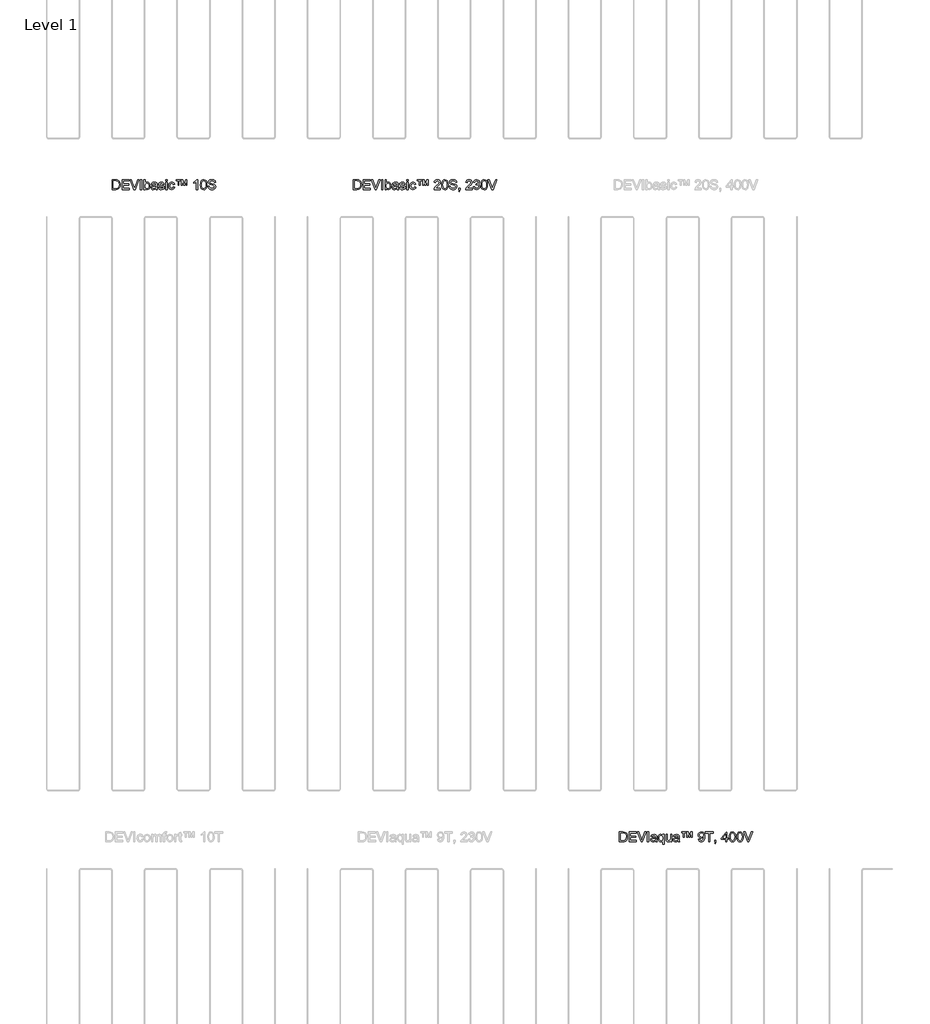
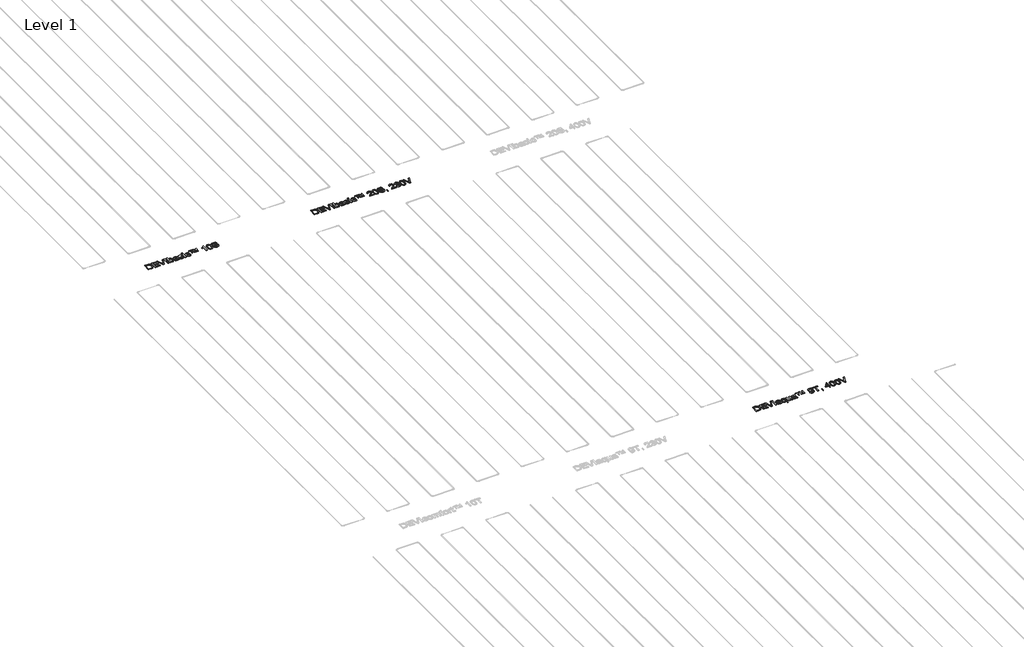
# One storey, part 12 of 26: 3 proxies.
"""IFC4 building model written with IfcOpenShell, lengths in millimetres."""

from ifc_helpers import new_model, si_unit, origin, origin_with_axes, place, context, project, spatial, polyline, outline, extrude, element, save

model = new_model("IFC4")

# Units and contexts
model_context = context("Model", 3, world=origin())
ifc_project = project(units=[si_unit("LENGTHUNIT", "METRE", prefix="MILLI")], contexts=[model_context])

# Site, building, storey
site = spatial("IfcSite", under=ifc_project)
building = spatial("IfcBuilding", under=site)
storey = spatial("IfcBuildingStorey", under=building, Name="Level 1", Elevation=0.0)

# Proxies
placement = place(None, origin())
element("IfcBuildingElementProxy", 1, Name="150mm", ObjectType="150mm", at=placement, inside=storey, context=model_context, shape_type="SweptSolid", body=[
    extrude(outline(polyline([(-10584.4008825, -7520.7202), (-10584.4008825, -7370.0357347), (-10532.4191566, -7370.0357347), (-10505.5269828, -7372.2062385), (-10483.3804866, -7382.985181), (-10472.9602291, -7394.4630992), (-10465.5382099, -7408.7369206), (-10461.0960348, -7425.5307337), (-10459.6153098, -7444.568627), (-10463.6252235, -7474.9740739), (-10473.9259194, -7496.9182349), (-10487.684706, -7510.585051), (-10505.6925297, -7518.145026), (-10529.917559, -7520.7202), (-10584.4008825, -7520.7202)]), holes=[polyline([(-10565.5653244, -7501.8846418), (-10532.2352156, -7501.8846418), (-10507.9917921, -7499.162315), (-10494.0122763, -7491.4735813), (-10482.5527522, -7472.7667819), (-10478.4508679, -7444.2743214), (-10480.4604233, -7423.746506), (-10486.4890895, -7408.5897678), (-10495.3964323, -7398.1787074), (-10506.0420176, -7391.8879252), (-10532.7502504, -7388.8712929), (-10565.5653244, -7388.8712929), (-10565.5653244, -7501.8846418)])]), origin_with_axes(), (0.0, 0.0, 1.0), 10.0),
    extrude(outline(polyline([(-10433.7164173, -7520.7202), (-10433.7164173, -7370.0357347), (-10325.4119579, -7370.0357347), (-10325.4119579, -7388.8712929), (-10414.8808591, -7388.8712929), (-10414.8808591, -7433.6057435), (-10330.1208475, -7433.6057435), (-10330.1208475, -7452.4413017), (-10414.8808591, -7452.4413017), (-10414.8808591, -7501.8846418), (-10323.0575132, -7501.8846418), (-10323.0575132, -7520.7202), (-10433.7164173, -7520.7202)])), origin_with_axes(), (0.0, 0.0, 1.0), 10.0),
    extrude(outline(polyline([(-10250.2904545, -7520.7202), (-10310.2552197, -7370.0357347), (-10290.0952864, -7370.0357347), (-10249.9593607, -7478.5977115), (-10241.8291686, -7503.0618642), (-10233.8093411, -7478.5977115), (-10193.5630508, -7370.0357347), (-10173.4031175, -7370.0357347), (-10230.829497, -7520.7202), (-10250.2904545, -7520.7202)])), origin_with_axes(), (0.0, 0.0, 1.0), 10.0),
    extrude(outline(polyline([(-10153.5374898, -7520.7202), (-10153.5374898, -7370.0357347), (-10134.7019316, -7370.0357347), (-10134.7019316, -7520.7202), (-10153.5374898, -7520.7202)])), origin_with_axes(), (0.0, 0.0, 1.0), 10.0),
    extrude(outline(polyline([(-10080.5497019, -7520.7202), (-10099.3852601, -7520.7202), (-10099.3852601, -7370.0357347), (-10080.5497019, -7370.0357347), (-10080.5497019, -7425.9170098), (-10067.3611324, -7412.2593907), (-10050.9719895, -7407.706851), (-10032.0996432, -7411.8087353), (-10017.4579398, -7423.3418358), (-10008.463225, -7441.2760831), (-10005.2074693, -7463.7352789), (-10008.5781881, -7488.8800133), (-10018.6903444, -7507.5868127), (-10033.5297844, -7519.2026867), (-10051.0823541, -7523.0746447), (-10067.8301819, -7518.0806466), (-10080.5497019, -7503.0986524), (-10080.5497019, -7520.7202)]), holes=[polyline([(-10080.5497019, -7464.6181957), (-10079.2621149, -7480.3267569), (-10075.399354, -7490.9585465), (-10065.5309195, -7500.9189516), (-10052.7010349, -7504.2390866), (-10041.8301219, -7501.7926713), (-10032.5411016, -7494.4534255), (-10026.167546, -7482.2673344), (-10024.0430275, -7465.2803833), (-10026.080174, -7448.0451118), (-10032.1916137, -7435.9969765), (-10041.190927, -7428.906051), (-10051.8916945, -7426.5424092), (-10062.7626075, -7428.9888245), (-10072.0516278, -7436.3280703), (-10078.4251834, -7448.2934322), (-10080.5497019, -7464.6181957)])]), origin_with_axes(), (0.0, 0.0, 1.0), 10.0),
    extrude(outline(polyline([(-9913.3841233, -7506.5935313), (-9931.6494644, -7519.3590366), (-9951.8277918, -7523.0746447), (-9967.5685427, -7520.8397616), (-9979.1798182, -7514.1351122), (-9986.3397215, -7503.953978), (-9988.7263559, -7491.2896403), (-9985.1211124, -7476.3904195), (-9975.648151, -7465.5746889), (-9962.4595815, -7459.3942714), (-9946.1624091, -7456.56158), (-9913.4944879, -7450.0868569), (-9913.3841233, -7445.8930021), (-9914.6809074, -7437.4868985), (-9918.5712595, -7431.9870627), (-9927.2716686, -7427.9035726), (-9939.3933804, -7426.5424092), (-9958.4496677, -7430.1660468), (-9967.536353, -7443.0235226), (-9986.3719112, -7440.6690778), (-9978.223325, -7422.274978), (-9961.815788, -7411.4960356), (-9936.9653592, -7407.706851), (-9914.1382814, -7411.0545772), (-9901.2440175, -7419.4606808), (-9895.4682702, -7432.2445801), (-9894.5485652, -7448.7256935), (-9894.5485652, -7472.1597766), (-9893.592072, -7504.8828801), (-9889.8396756, -7520.7202), (-9908.6752338, -7520.7202), (-9913.3841233, -7506.5935313)]), holes=[polyline([(-9913.3841233, -7468.922415), (-9943.7711761, -7474.6981624), (-9959.976378, -7477.7515829), (-9967.3156238, -7482.7179899), (-9969.8907978, -7489.9652652), (-9964.2805974, -7500.1555964), (-9947.8178781, -7504.2390866), (-9928.7615907, -7499.7325321), (-9916.4743321, -7488.824831), (-9913.4944879, -7474.256704), (-9913.3841233, -7468.922415)])]), origin_with_axes(), (0.0, 0.0, 1.0), 10.0),
    extrude(outline(polyline([(-9875.713007, -7487.7579732), (-9856.8774489, -7485.4035284), (-9853.9068018, -7493.4601441), (-9848.1586456, -7499.3830442), (-9828.1826532, -7504.2390866), (-9808.9792131, -7499.7877144), (-9802.7252192, -7489.3398658), (-9804.2979147, -7484.5390057), (-9809.0160013, -7480.8785799), (-9828.4033824, -7475.5075028), (-9856.7670843, -7466.2920588), (-9869.1463134, -7455.5315104), (-9873.3585622, -7440.337984), (-9869.9740479, -7426.3032859), (-9860.7402098, -7415.5795257), (-9848.7656509, -7410.0061135), (-9832.560449, -7407.706851), (-9809.6414007, -7411.4040651), (-9795.0732737, -7421.4104554), (-9788.5985506, -7438.314633), (-9807.4341087, -7440.6690778), (-9814.5158371, -7430.2764114), (-9831.088921, -7426.5424092), (-9849.1151388, -7430.1108645), (-9854.5230041, -7438.4249976), (-9852.2789239, -7443.9064394), (-9845.2523778, -7448.0635059), (-9829.0287818, -7452.0734197), (-9801.3824499, -7460.9393757), (-9788.5433683, -7470.9825542), (-9783.889661, -7487.353303), (-9789.3527086, -7505.3795208), (-9805.1164521, -7518.4577257), (-9828.4401706, -7523.0746447), (-9847.4320786, -7520.8489587), (-9861.2920328, -7514.1719004), (-9870.544265, -7503.1170465), (-9875.713007, -7487.7579732)])), origin_with_axes(), (0.0, 0.0, 1.0), 10.0),
    extrude(outline(polyline([(-9762.6996581, -7388.8712929), (-9762.6996581, -7370.0357347), (-9743.8640999, -7370.0357347), (-9743.8640999, -7388.8712929), (-9762.6996581, -7388.8712929)])), origin_with_axes(), (0.0, 0.0, 1.0), 10.0),
    extrude(outline(polyline([(-9762.6996581, -7520.7202), (-9762.6996581, -7410.0612958), (-9743.8640999, -7410.0612958), (-9743.8640999, -7520.7202), (-9762.6996581, -7520.7202)])), origin_with_axes(), (0.0, 0.0, 1.0), 10.0),
    extrude(outline(polyline([(-9644.9774196, -7480.6946389), (-9626.1418615, -7483.0490837), (-9631.393377, -7499.80151), (-9641.2618115, -7512.4612492), (-9654.818263, -7520.4212958), (-9671.1338295, -7523.0746447), (-9691.1696027, -7519.3728322), (-9706.8367771, -7508.2673944), (-9716.9489335, -7490.2457752), (-9720.3196523, -7465.7954181), (-9718.8803139, -7449.0337947), (-9714.562299, -7434.5070544), (-9707.2966296, -7422.7762173), (-9697.0143279, -7414.4023034), (-9684.7132736, -7409.3807141), (-9671.3913469, -7407.706851), (-9655.4758521, -7410.0061135), (-9642.7517336, -7416.9039009), (-9633.6236616, -7428.0323313), (-9628.4963063, -7443.0235226), (-9647.3318644, -7445.3779673), (-9656.0690618, -7431.2696928), (-9671.2441941, -7426.5424092), (-9683.4164896, -7428.8692628), (-9693.0779905, -7435.8498237), (-9699.3825682, -7447.8611708), (-9701.4840941, -7465.2803833), (-9699.4285535, -7482.9341205), (-9693.2619315, -7494.9868544), (-9683.7751746, -7501.9260285), (-9671.7592289, -7504.2390866), (-9662.0057575, -7502.7951497), (-9654.0089226, -7498.4633392), (-9648.1917886, -7491.1332905), (-9644.9774196, -7480.6946389)])), origin_with_axes(), (0.0, 0.0, 1.0), 10.0),
    extrude(outline(polyline([(-9574.3440766, -7454.7957464), (-9574.3440766, -7384.1624033), (-9602.5974138, -7384.1624033), (-9602.5974138, -7370.0357347), (-9531.9640707, -7370.0357347), (-9531.9640707, -7384.1624033), (-9560.217408, -7384.1624033), (-9560.217408, -7454.7957464), (-9574.3440766, -7454.7957464)])), origin_with_axes(), (0.0, 0.0, 1.0), 10.0),
    extrude(outline(polyline([(-9522.5462916, -7454.7957464), (-9522.5462916, -7370.0357347), (-9501.6505943, -7370.0357347), (-9480.0927094, -7438.0939038), (-9458.7923419, -7370.0357347), (-9437.78628, -7370.0357347), (-9437.78628, -7454.7957464), (-9451.9129486, -7454.7957464), (-9451.9129486, -7385.1924729), (-9473.1029515, -7454.7957464), (-9487.2296201, -7454.7957464), (-9508.419623, -7384.1624033), (-9508.419623, -7454.7957464), (-9522.5462916, -7454.7957464)])), origin_with_axes(), (0.0, 0.0, 1.0), 10.0),
    extrude(outline(polyline([(-9275.3295909, -7520.7202), (-9294.165149, -7520.7202), (-9294.165149, -7403.2922671), (-9312.0074258, -7416.00259), (-9331.8362653, -7425.5123396), (-9331.8362653, -7407.706851), (-9304.2267216, -7390.0853035), (-9287.4696967, -7370.0357347), (-9275.3295909, -7370.0357347), (-9275.3295909, -7520.7202)])), origin_with_axes(), (0.0, 0.0, 1.0), 10.0),
    extrude(outline(polyline([(-9230.5951403, -7446.5919779), (-9229.2109843, -7422.4727146), (-9225.0585162, -7403.2370848), (-9218.1791229, -7388.5907829), (-9208.6141911, -7378.2395032), (-9196.2947427, -7372.0866769), (-9181.1518001, -7370.0357347), (-9159.1524568, -7374.8917771), (-9143.9589304, -7388.889687), (-9135.1297625, -7411.1833359), (-9131.70846, -7446.5919779), (-9133.0788204, -7470.5732855), (-9137.1899017, -7489.7629301), (-9144.0279083, -7504.4230276), (-9153.5790446, -7514.8156939), (-9165.926084, -7521.009907), (-9181.1518001, -7523.0746447), (-9200.7231223, -7519.4877953), (-9215.5855549, -7508.7272469), (-9226.8427439, -7483.2422217), (-9230.5951403, -7446.5919779)]), holes=[polyline([(-9211.7595821, -7446.5551897), (-9209.5522901, -7476.1834859), (-9202.9304142, -7493.3313854), (-9193.0711768, -7501.5121613), (-9181.1518001, -7504.2390866), (-9169.2324235, -7501.5029642), (-9159.373186, -7493.2945972), (-9152.7513101, -7476.1375007), (-9150.5440181, -7446.5551897), (-9152.6777337, -7417.5936797), (-9159.0788804, -7400.3124229), (-9168.9197238, -7391.7315754), (-9181.3725293, -7388.8712929), (-9193.1631473, -7391.3912846), (-9202.6361086, -7398.9512596), (-9209.4787138, -7417.3085711), (-9211.7595821, -7446.5551897)])]), origin_with_axes(), (0.0, 0.0, 1.0), 10.0),
    extrude(outline(polyline([(-9115.2273466, -7468.922415), (-9096.3917884, -7468.922415), (-9090.3217355, -7487.7763673), (-9075.4960911, -7499.6957439), (-9052.9081366, -7504.2390866), (-9033.2264499, -7500.7993899), (-9020.5161269, -7491.3448226), (-9016.3406663, -7478.7080761), (-9019.4676632, -7466.9542464), (-9032.2699567, -7458.40099), (-9059.6955594, -7451.208897), (-9089.2180895, -7441.9198766), (-9105.2393504, -7427.9035726), (-9110.518457, -7409.178379), (-9108.8859807, -7398.1465177), (-9103.9885516, -7387.8596174), (-9095.9549286, -7379.1408141), (-9084.9138702, -7372.8132438), (-9056.9916267, -7367.68129), (-9027.1931851, -7373.0523671), (-9015.7704492, -7379.6834401), (-9007.3275574, -7388.8345047), (-9001.9840714, -7399.9353439), (-8999.8595529, -7412.4157406), (-9018.6951111, -7412.4157406), (-9022.1532018, -7401.1769456), (-9029.3636889, -7393.0651476), (-9040.630075, -7388.153923), (-9056.2558628, -7386.5168481), (-9072.2495325, -7388.1355289), (-9083.221613, -7392.9915712), (-9089.5675774, -7400.137679), (-9091.6828989, -7408.626556), (-9090.1837798, -7415.8646343), (-9085.6864224, -7421.6863669), (-9054.9314876, -7432.2077919), (-9021.6013788, -7441.6623592), (-9010.8638231, -7448.4957673), (-9003.372826, -7456.929462), (-8998.9720376, -7466.8714729), (-8997.5051081, -7478.2298295), (-8999.1927668, -7489.841105), (-9004.2557427, -7500.7626017), (-9012.4871024, -7510.1619867), (-9023.6799121, -7517.2069269), (-9037.1397946, -7521.6077153), (-9052.1723726, -7523.0746447), (-9070.6262532, -7521.4927521), (-9085.8151811, -7516.7470744), (-9097.9139002, -7508.8192174), (-9107.0971545, -7497.6907871), (-9112.9924635, -7484.1343355), (-9115.2273466, -7468.922415)])), origin_with_axes(), (0.0, 0.0, 1.0), 10.0),
])
element("IfcBuildingElementProxy", 2, Name="150mm", ObjectType="150mm", at=placement, inside=storey, context=model_context, shape_type="SweptSolid", body=[
    extrude(outline(polyline([(-6885.769813, -7520.7202), (-6885.769813, -7370.0357347), (-6833.7880871, -7370.0357347), (-6806.8959132, -7372.2062385), (-6784.7494171, -7382.985181), (-6774.3291596, -7394.4630992), (-6766.9071403, -7408.7369206), (-6762.4649652, -7425.5307337), (-6760.9842402, -7444.568627), (-6764.994154, -7474.9740739), (-6775.2948498, -7496.9182349), (-6789.0536364, -7510.585051), (-6807.0614601, -7518.145026), (-6831.2864895, -7520.7202), (-6885.769813, -7520.7202)]), holes=[polyline([(-6866.9342548, -7501.8846418), (-6833.6041461, -7501.8846418), (-6809.3607226, -7499.162315), (-6795.3812068, -7491.4735813), (-6783.9216826, -7472.7667819), (-6779.8197984, -7444.2743214), (-6781.8293538, -7423.746506), (-6787.85802, -7408.5897678), (-6796.7653628, -7398.1787074), (-6807.410948, -7391.8879252), (-6834.1191808, -7388.8712929), (-6866.9342548, -7388.8712929), (-6866.9342548, -7501.8846418)])]), origin_with_axes(), (0.0, 0.0, 1.0), 10.0),
    extrude(outline(polyline([(-6735.0853477, -7520.7202), (-6735.0853477, -7370.0357347), (-6626.7808884, -7370.0357347), (-6626.7808884, -7388.8712929), (-6716.2497896, -7388.8712929), (-6716.2497896, -7433.6057435), (-6631.4897779, -7433.6057435), (-6631.4897779, -7452.4413017), (-6716.2497896, -7452.4413017), (-6716.2497896, -7501.8846418), (-6624.4264436, -7501.8846418), (-6624.4264436, -7520.7202), (-6735.0853477, -7520.7202)])), origin_with_axes(), (0.0, 0.0, 1.0), 10.0),
    extrude(outline(polyline([(-6551.659385, -7520.7202), (-6611.6241502, -7370.0357347), (-6591.4642168, -7370.0357347), (-6551.3282912, -7478.5977115), (-6543.1980991, -7503.0618642), (-6535.1782716, -7478.5977115), (-6494.9319813, -7370.0357347), (-6474.772048, -7370.0357347), (-6532.1984274, -7520.7202), (-6551.659385, -7520.7202)])), origin_with_axes(), (0.0, 0.0, 1.0), 10.0),
    extrude(outline(polyline([(-6454.9064202, -7520.7202), (-6454.9064202, -7370.0357347), (-6436.0708621, -7370.0357347), (-6436.0708621, -7520.7202), (-6454.9064202, -7520.7202)])), origin_with_axes(), (0.0, 0.0, 1.0), 10.0),
    extrude(outline(polyline([(-6381.9186324, -7520.7202), (-6400.7541905, -7520.7202), (-6400.7541905, -7370.0357347), (-6381.9186324, -7370.0357347), (-6381.9186324, -7425.9170098), (-6368.7300629, -7412.2593907), (-6352.34092, -7407.706851), (-6333.4685736, -7411.8087353), (-6318.8268702, -7423.3418358), (-6309.8321554, -7441.2760831), (-6306.5763998, -7463.7352789), (-6309.9471185, -7488.8800133), (-6320.0592749, -7507.5868127), (-6334.8987149, -7519.2026867), (-6352.4512846, -7523.0746447), (-6369.1991124, -7518.0806466), (-6381.9186324, -7503.0986524), (-6381.9186324, -7520.7202)]), holes=[polyline([(-6381.9186324, -7464.6181957), (-6380.6310454, -7480.3267569), (-6376.7682844, -7490.9585465), (-6366.8998499, -7500.9189516), (-6354.0699653, -7504.2390866), (-6343.1990524, -7501.7926713), (-6333.910032, -7494.4534255), (-6327.5364764, -7482.2673344), (-6325.4119579, -7465.2803833), (-6327.4491045, -7448.0451118), (-6333.5605441, -7435.9969765), (-6342.5598574, -7428.906051), (-6353.260625, -7426.5424092), (-6364.1315379, -7428.9888245), (-6373.4205583, -7436.3280703), (-6379.7941139, -7448.2934322), (-6381.9186324, -7464.6181957)])]), origin_with_axes(), (0.0, 0.0, 1.0), 10.0),
    extrude(outline(polyline([(-6214.7530538, -7506.5935313), (-6233.0183948, -7519.3590366), (-6253.1967223, -7523.0746447), (-6268.9374731, -7520.8397616), (-6280.5487486, -7514.1351122), (-6287.7086519, -7503.953978), (-6290.0952864, -7491.2896403), (-6286.4900428, -7476.3904195), (-6277.0170815, -7465.5746889), (-6263.8285119, -7459.3942714), (-6247.5313395, -7456.56158), (-6214.8634184, -7450.0868569), (-6214.7530538, -7445.8930021), (-6216.0498378, -7437.4868985), (-6219.9401899, -7431.9870627), (-6228.6405991, -7427.9035726), (-6240.7623108, -7426.5424092), (-6259.8185982, -7430.1660468), (-6268.9052835, -7443.0235226), (-6287.7408416, -7440.6690778), (-6279.5922554, -7422.274978), (-6263.1847184, -7411.4960356), (-6238.3342897, -7407.706851), (-6215.5072119, -7411.0545772), (-6202.6129479, -7419.4606808), (-6196.8372006, -7432.2445801), (-6195.9174956, -7448.7256935), (-6195.9174956, -7472.1597766), (-6194.9610024, -7504.8828801), (-6191.2086061, -7520.7202), (-6210.0441642, -7520.7202), (-6214.7530538, -7506.5935313)]), holes=[polyline([(-6214.7530538, -7468.922415), (-6245.1401066, -7474.6981624), (-6261.3453085, -7477.7515829), (-6268.6845543, -7482.7179899), (-6271.2597282, -7489.9652652), (-6265.6495278, -7500.1555964), (-6249.1868085, -7504.2390866), (-6230.1305212, -7499.7325321), (-6217.8432625, -7488.824831), (-6214.8634184, -7474.256704), (-6214.7530538, -7468.922415)])]), origin_with_axes(), (0.0, 0.0, 1.0), 10.0),
    extrude(outline(polyline([(-6177.0819375, -7487.7579732), (-6158.2463793, -7485.4035284), (-6155.2757322, -7493.4601441), (-6149.527576, -7499.3830442), (-6129.5515837, -7504.2390866), (-6110.3481435, -7499.7877144), (-6104.0941496, -7489.3398658), (-6105.6668452, -7484.5390057), (-6110.3849317, -7480.8785799), (-6129.7723129, -7475.5075028), (-6158.1360147, -7466.2920588), (-6170.5152439, -7455.5315104), (-6174.7274927, -7440.337984), (-6171.3429783, -7426.3032859), (-6162.1091403, -7415.5795257), (-6150.1345813, -7410.0061135), (-6133.9293794, -7407.706851), (-6111.0103311, -7411.4040651), (-6096.4422041, -7421.4104554), (-6089.967481, -7438.314633), (-6108.8030392, -7440.6690778), (-6115.8847676, -7430.2764114), (-6132.4578514, -7426.5424092), (-6150.4840692, -7430.1108645), (-6155.8919345, -7438.4249976), (-6153.6478544, -7443.9064394), (-6146.6213083, -7448.0635059), (-6130.3977123, -7452.0734197), (-6102.7513803, -7460.9393757), (-6089.9122987, -7470.9825542), (-6085.2585915, -7487.353303), (-6090.7216391, -7505.3795208), (-6106.4853826, -7518.4577257), (-6129.8091011, -7523.0746447), (-6148.8010091, -7520.8489587), (-6162.6609633, -7514.1719004), (-6171.9131954, -7503.1170465), (-6177.0819375, -7487.7579732)])), origin_with_axes(), (0.0, 0.0, 1.0), 10.0),
    extrude(outline(polyline([(-6064.0685885, -7388.8712929), (-6064.0685885, -7370.0357347), (-6045.2330304, -7370.0357347), (-6045.2330304, -7388.8712929), (-6064.0685885, -7388.8712929)])), origin_with_axes(), (0.0, 0.0, 1.0), 10.0),
    extrude(outline(polyline([(-6064.0685885, -7520.7202), (-6064.0685885, -7410.0612958), (-6045.2330304, -7410.0612958), (-6045.2330304, -7520.7202), (-6064.0685885, -7520.7202)])), origin_with_axes(), (0.0, 0.0, 1.0), 10.0),
    extrude(outline(polyline([(-5946.3463501, -7480.6946389), (-5927.5107919, -7483.0490837), (-5932.7623074, -7499.80151), (-5942.6307419, -7512.4612492), (-5956.1871935, -7520.4212958), (-5972.5027599, -7523.0746447), (-5992.5385331, -7519.3728322), (-6008.2057076, -7508.2673944), (-6018.3178639, -7490.2457752), (-6021.6885827, -7465.7954181), (-6020.2492444, -7449.0337947), (-6015.9312295, -7434.5070544), (-6008.6655601, -7422.7762173), (-5998.3832583, -7414.4023034), (-5986.0822041, -7409.3807141), (-5972.7602773, -7407.706851), (-5956.8447825, -7410.0061135), (-5944.120664, -7416.9039009), (-5934.992592, -7428.0323313), (-5929.8652367, -7443.0235226), (-5948.7007949, -7445.3779673), (-5957.4379922, -7431.2696928), (-5972.6131245, -7426.5424092), (-5984.7854201, -7428.8692628), (-5994.446921, -7435.8498237), (-6000.7514987, -7447.8611708), (-6002.8530245, -7465.2803833), (-6000.7974839, -7482.9341205), (-5994.630862, -7494.9868544), (-5985.144105, -7501.9260285), (-5973.1281593, -7504.2390866), (-5963.3746879, -7502.7951497), (-5955.3778531, -7498.4633392), (-5949.560719, -7491.1332905), (-5946.3463501, -7480.6946389)])), origin_with_axes(), (0.0, 0.0, 1.0), 10.0),
    extrude(outline(polyline([(-5875.713007, -7454.7957464), (-5875.713007, -7384.1624033), (-5903.9663442, -7384.1624033), (-5903.9663442, -7370.0357347), (-5833.3330012, -7370.0357347), (-5833.3330012, -7384.1624033), (-5861.5863384, -7384.1624033), (-5861.5863384, -7454.7957464), (-5875.713007, -7454.7957464)])), origin_with_axes(), (0.0, 0.0, 1.0), 10.0),
    extrude(outline(polyline([(-5823.9152221, -7454.7957464), (-5823.9152221, -7370.0357347), (-5803.0195248, -7370.0357347), (-5781.4616399, -7438.0939038), (-5760.1612723, -7370.0357347), (-5739.1552104, -7370.0357347), (-5739.1552104, -7454.7957464), (-5753.281879, -7454.7957464), (-5753.281879, -7385.1924729), (-5774.4718819, -7454.7957464), (-5788.5985506, -7454.7957464), (-5809.7885535, -7384.1624033), (-5809.7885535, -7454.7957464), (-5823.9152221, -7454.7957464)])), origin_with_axes(), (0.0, 0.0, 1.0), 10.0),
    extrude(outline(polyline([(-5550.7996289, -7501.8846418), (-5550.7996289, -7520.7202), (-5649.6863092, -7520.7202), (-5647.6629582, -7507.7339655), (-5636.2218282, -7487.7395791), (-5612.6405923, -7465.9057827), (-5580.1198239, -7434.5254485), (-5574.0221798, -7423.7097178), (-5571.9896318, -7413.1882928), (-5573.9072167, -7403.7567181), (-5579.6599714, -7395.9162331), (-5588.5029349, -7390.6325279), (-5599.691146, -7388.8712929), (-5611.4403773, -7390.5911412), (-5620.5684493, -7395.7506862), (-5626.4591597, -7403.9452576), (-5628.4963063, -7414.7701853), (-5647.3318644, -7412.4157406), (-5642.7655291, -7394.1963848), (-5632.8924961, -7380.8882536), (-5618.2278001, -7372.7488644), (-5599.2864758, -7370.0357347), (-5580.2071959, -7373.0523671), (-5565.570091, -7382.1022642), (-5556.258078, -7395.6219275), (-5553.1540736, -7412.0478586), (-5556.5017998, -7429.9085294), (-5567.6302302, -7448.3762056), (-5594.6143745, -7474.1831276), (-5616.282624, -7492.3013158), (-5624.7806981, -7501.8846418), (-5550.7996289, -7501.8846418)])), origin_with_axes(), (0.0, 0.0, 1.0), 10.0),
    extrude(outline(polyline([(-5531.9640707, -7446.5919779), (-5530.5799147, -7422.4727146), (-5526.4274467, -7403.2370848), (-5519.5480534, -7388.5907829), (-5509.9831215, -7378.2395032), (-5497.6636732, -7372.0866769), (-5482.5207306, -7370.0357347), (-5460.5213873, -7374.8917771), (-5445.3278609, -7388.889687), (-5436.498693, -7411.1833359), (-5433.0773904, -7446.5919779), (-5434.4477509, -7470.5732855), (-5438.5588321, -7489.7629301), (-5445.3968387, -7504.4230276), (-5454.947975, -7514.8156939), (-5467.2950145, -7521.009907), (-5482.5207306, -7523.0746447), (-5502.0920527, -7519.4877953), (-5516.9544853, -7508.7272469), (-5528.2116744, -7483.2422217), (-5531.9640707, -7446.5919779)]), holes=[polyline([(-5513.1285126, -7446.5551897), (-5510.9212206, -7476.1834859), (-5504.2993447, -7493.3313854), (-5494.4401072, -7501.5121613), (-5482.5207306, -7504.2390866), (-5470.6013539, -7501.5029642), (-5460.7421165, -7493.2945972), (-5454.1202405, -7476.1375007), (-5451.9129486, -7446.5551897), (-5454.0466641, -7417.5936797), (-5460.4478109, -7400.3124229), (-5470.2886542, -7391.7315754), (-5482.7414598, -7388.8712929), (-5494.5320777, -7391.3912846), (-5504.0050391, -7398.9512596), (-5510.8476442, -7417.3085711), (-5513.1285126, -7446.5551897)])]), origin_with_axes(), (0.0, 0.0, 1.0), 10.0),
    extrude(outline(polyline([(-5416.596277, -7468.922415), (-5397.7607189, -7468.922415), (-5391.690666, -7487.7763673), (-5376.8650216, -7499.6957439), (-5354.2770671, -7504.2390866), (-5334.5953803, -7500.7993899), (-5321.8850574, -7491.3448226), (-5317.7095967, -7478.7080761), (-5320.8365937, -7466.9542464), (-5333.6388871, -7458.40099), (-5361.0644899, -7451.208897), (-5390.58702, -7441.9198766), (-5406.6082809, -7427.9035726), (-5411.8873875, -7409.178379), (-5410.2549111, -7398.1465177), (-5405.3574821, -7387.8596174), (-5397.323859, -7379.1408141), (-5386.2828006, -7372.8132438), (-5358.3605572, -7367.68129), (-5328.5621156, -7373.0523671), (-5317.1393796, -7379.6834401), (-5308.6964878, -7388.8345047), (-5303.3530019, -7399.9353439), (-5301.2284833, -7412.4157406), (-5320.0640415, -7412.4157406), (-5323.5221323, -7401.1769456), (-5330.7326194, -7393.0651476), (-5341.9990055, -7388.153923), (-5357.6247932, -7386.5168481), (-5373.6184629, -7388.1355289), (-5384.5905435, -7392.9915712), (-5390.9365079, -7400.137679), (-5393.0518293, -7408.626556), (-5391.5527102, -7415.8646343), (-5387.0553528, -7421.6863669), (-5356.300418, -7432.2077919), (-5322.9703093, -7441.6623592), (-5312.2327535, -7448.4957673), (-5304.7417564, -7456.929462), (-5300.340968, -7466.8714729), (-5298.8740386, -7478.2298295), (-5300.5616972, -7489.841105), (-5305.6246732, -7500.7626017), (-5313.8560328, -7510.1619867), (-5325.0488425, -7517.2069269), (-5338.508725, -7521.6077153), (-5353.5413031, -7523.0746447), (-5371.9951836, -7521.4927521), (-5387.1841115, -7516.7470744), (-5399.2828306, -7508.8192174), (-5408.4660849, -7497.6907871), (-5414.3613939, -7484.1343355), (-5416.596277, -7468.922415)])), origin_with_axes(), (0.0, 0.0, 1.0), 10.0),
    extrude(outline(polyline([(-5268.2662566, -7520.7202), (-5268.2662566, -7501.8846418), (-5249.4306984, -7501.8846418), (-5249.4306984, -7520.7202), (-5252.8152128, -7539.9788224), (-5263.557367, -7551.327982), (-5268.2662566, -7544.2646476), (-5261.3500751, -7536.1344556), (-5258.8852657, -7520.7202), (-5268.2662566, -7520.7202)])), origin_with_axes(), (0.0, 0.0, 1.0), 10.0),
    extrude(outline(polyline([(-5063.4295617, -7501.8846418), (-5063.4295617, -7520.7202), (-5162.316242, -7520.7202), (-5160.292891, -7507.7339655), (-5148.8517609, -7487.7395791), (-5125.2705251, -7465.9057827), (-5092.7497567, -7434.5254485), (-5086.6521126, -7423.7097178), (-5084.6195646, -7413.1882928), (-5086.5371495, -7403.7567181), (-5092.2899042, -7395.9162331), (-5101.1328676, -7390.6325279), (-5112.3210788, -7388.8712929), (-5124.07031, -7390.5911412), (-5133.1983821, -7395.7506862), (-5139.0890925, -7403.9452576), (-5141.126239, -7414.7701853), (-5159.9617972, -7412.4157406), (-5155.3954619, -7394.1963848), (-5145.5224289, -7380.8882536), (-5130.8577329, -7372.7488644), (-5111.9164086, -7370.0357347), (-5092.8371287, -7373.0523671), (-5078.2000238, -7382.1022642), (-5068.8880108, -7395.6219275), (-5065.7840064, -7412.0478586), (-5069.1317326, -7429.9085294), (-5080.2601629, -7448.3762056), (-5107.2443073, -7474.1831276), (-5128.9125568, -7492.3013158), (-5137.4106309, -7501.8846418), (-5063.4295617, -7501.8846418)])), origin_with_axes(), (0.0, 0.0, 1.0), 10.0),
    extrude(outline(polyline([(-5044.5940035, -7480.6946389), (-5025.7584454, -7478.3401941), (-5021.541598, -7490.1767973), (-5015.365779, -7498.1690337), (-5006.9274857, -7502.7215733), (-4995.9232155, -7504.2390866), (-4983.0105575, -7502.1513563), (-4973.0409554, -7495.8881653), (-4966.6673999, -7486.5439626), (-4964.5428814, -7475.2131972), (-4966.6490058, -7464.4572473), (-4972.9673791, -7455.7338455), (-4982.5323109, -7449.9534997), (-4994.3781112, -7448.0267177), (-5007.5850748, -7450.0868569), (-5005.4881474, -7431.2512987), (-5002.4715151, -7431.4720279), (-4981.0975711, -7426.0641626), (-4973.9790545, -7419.2031634), (-4971.6062157, -7409.4358964), (-4973.326064, -7401.3011058), (-4978.485609, -7394.7022225), (-4986.3582837, -7390.3290253), (-4996.2175211, -7388.8712929), (-5006.0951527, -7390.3428209), (-5014.1701625, -7394.7574048), (-5020.0654715, -7402.1150447), (-5023.4040006, -7412.4157406), (-5042.2395587, -7410.0612958), (-5036.6937377, -7393.1479211), (-5026.8253031, -7380.5203716), (-5013.3240339, -7372.6568939), (-4996.8797087, -7370.0357347), (-4974.1629955, -7375.2044768), (-4958.2704933, -7389.3311454), (-4952.7706575, -7408.3322504), (-4957.9945818, -7425.6962806), (-4973.4456256, -7438.1674802), (-4961.6550077, -7442.9315521), (-4952.9178103, -7451.0433501), (-4947.509945, -7462.0614158), (-4945.7073232, -7475.544291), (-4949.3125668, -7493.9016025), (-4960.1282974, -7509.2422817), (-4976.453061, -7519.616554), (-4996.5854031, -7523.0746447), (-5014.7955619, -7520.1223917), (-5029.6212063, -7511.2656327), (-5039.9310992, -7497.7183782), (-5044.5940035, -7480.6946389)])), origin_with_axes(), (0.0, 0.0, 1.0), 10.0),
    extrude(outline(polyline([(-4929.2262098, -7446.5919779), (-4927.8420538, -7422.4727146), (-4923.6895858, -7403.2370848), (-4916.8101925, -7388.5907829), (-4907.2452606, -7378.2395032), (-4894.9258123, -7372.0866769), (-4879.7828697, -7370.0357347), (-4857.7835264, -7374.8917771), (-4842.59, -7388.889687), (-4833.7608321, -7411.1833359), (-4830.3395295, -7446.5919779), (-4831.70989, -7470.5732855), (-4835.8209712, -7489.7629301), (-4842.6589778, -7504.4230276), (-4852.2101141, -7514.8156939), (-4864.5571536, -7521.009907), (-4879.7828697, -7523.0746447), (-4899.3541918, -7519.4877953), (-4914.2166244, -7508.7272469), (-4925.4738135, -7483.2422217), (-4929.2262098, -7446.5919779)]), holes=[polyline([(-4910.3906517, -7446.5551897), (-4908.1833597, -7476.1834859), (-4901.5614838, -7493.3313854), (-4891.7022463, -7501.5121613), (-4879.7828697, -7504.2390866), (-4867.863493, -7501.5029642), (-4858.0042556, -7493.2945972), (-4851.3823796, -7476.1375007), (-4849.1750877, -7446.5551897), (-4851.3088032, -7417.5936797), (-4857.70995, -7400.3124229), (-4867.5507933, -7391.7315754), (-4880.0035989, -7388.8712929), (-4891.7942168, -7391.3912846), (-4901.2671782, -7398.9512596), (-4908.1097833, -7417.3085711), (-4910.3906517, -7446.5551897)])]), origin_with_axes(), (0.0, 0.0, 1.0), 10.0),
    extrude(outline(polyline([(-4762.2813604, -7520.7202), (-4822.2461256, -7370.0357347), (-4802.0861923, -7370.0357347), (-4761.9502666, -7478.5977115), (-4753.8200745, -7503.0618642), (-4745.800247, -7478.5977115), (-4705.5539568, -7370.0357347), (-4685.3940234, -7370.0357347), (-4742.8204029, -7520.7202), (-4762.2813604, -7520.7202)])), origin_with_axes(), (0.0, 0.0, 1.0), 10.0),
])
element("IfcBuildingElementProxy", 3, Name="150mm", ObjectType="150mm", at=placement, inside=storey, context=model_context, shape_type="SweptSolid", body=[
    extrude(outline(polyline([(-2808.0731356, -17520.7202), (-2808.0731356, -17370.0357347), (-2756.0914097, -17370.0357347), (-2729.1992358, -17372.2062385), (-2707.0527397, -17382.985181), (-2696.6324822, -17394.4630992), (-2689.2104629, -17408.7369206), (-2684.7682879, -17425.5307337), (-2683.2875628, -17444.568627), (-2687.2974766, -17474.9740739), (-2697.5981724, -17496.9182349), (-2711.3569591, -17510.585051), (-2729.3647827, -17518.145026), (-2753.5898121, -17520.7202), (-2808.0731356, -17520.7202)]), holes=[polyline([(-2789.2375774, -17501.8846418), (-2755.9074687, -17501.8846418), (-2731.6640452, -17499.162315), (-2717.6845294, -17491.4735813), (-2706.2250052, -17472.7667819), (-2702.123121, -17444.2743214), (-2704.1326764, -17423.746506), (-2710.1613426, -17408.5897678), (-2719.0686854, -17398.1787074), (-2729.7142706, -17391.8879252), (-2756.4225035, -17388.8712929), (-2789.2375774, -17388.8712929), (-2789.2375774, -17501.8846418)])]), origin_with_axes(), (0.0, 0.0, 1.0), 10.0),
    extrude(outline(polyline([(-2657.3886704, -17520.7202), (-2657.3886704, -17370.0357347), (-2549.084211, -17370.0357347), (-2549.084211, -17388.8712929), (-2638.5531122, -17388.8712929), (-2638.5531122, -17433.6057435), (-2553.7931005, -17433.6057435), (-2553.7931005, -17452.4413017), (-2638.5531122, -17452.4413017), (-2638.5531122, -17501.8846418), (-2546.7297662, -17501.8846418), (-2546.7297662, -17520.7202), (-2657.3886704, -17520.7202)])), origin_with_axes(), (0.0, 0.0, 1.0), 10.0),
    extrude(outline(polyline([(-2473.9627076, -17520.7202), (-2533.9274728, -17370.0357347), (-2513.7675394, -17370.0357347), (-2473.6316138, -17478.5977115), (-2465.5014217, -17503.0618642), (-2457.4815942, -17478.5977115), (-2417.2353039, -17370.0357347), (-2397.0753706, -17370.0357347), (-2454.50175, -17520.7202), (-2473.9627076, -17520.7202)])), origin_with_axes(), (0.0, 0.0, 1.0), 10.0),
    extrude(outline(polyline([(-2377.2097428, -17520.7202), (-2377.2097428, -17370.0357347), (-2358.3741847, -17370.0357347), (-2358.3741847, -17520.7202), (-2377.2097428, -17520.7202)])), origin_with_axes(), (0.0, 0.0, 1.0), 10.0),
    extrude(outline(polyline([(-2252.4241701, -17506.5935313), (-2270.6895111, -17519.3590366), (-2290.8678386, -17523.0746447), (-2306.6085894, -17520.8397616), (-2318.2198649, -17514.1351122), (-2325.3797682, -17503.953978), (-2327.7664027, -17491.2896403), (-2324.1611591, -17476.3904195), (-2314.6881978, -17465.5746889), (-2301.4996282, -17459.3942714), (-2285.2024558, -17456.56158), (-2252.5345347, -17450.0868569), (-2252.4241701, -17445.8930021), (-2253.7209541, -17437.4868985), (-2257.6113062, -17431.9870627), (-2266.3117154, -17427.9035726), (-2278.4334271, -17426.5424092), (-2297.4897145, -17430.1660468), (-2306.5763998, -17443.0235226), (-2325.4119579, -17440.6690778), (-2317.2633717, -17422.274978), (-2300.8558347, -17411.4960356), (-2276.005406, -17407.706851), (-2253.1783282, -17411.0545772), (-2240.2840642, -17419.4606808), (-2234.5083169, -17432.2445801), (-2233.5886119, -17448.7256935), (-2233.5886119, -17472.1597766), (-2232.6321187, -17504.8828801), (-2228.8797224, -17520.7202), (-2247.7152805, -17520.7202), (-2252.4241701, -17506.5935313)]), holes=[polyline([(-2252.4241701, -17468.922415), (-2282.8112229, -17474.6981624), (-2299.0164248, -17477.7515829), (-2306.3556706, -17482.7179899), (-2308.9308445, -17489.9652652), (-2303.3206441, -17500.1555964), (-2286.8579248, -17504.2390866), (-2267.8016375, -17499.7325321), (-2255.5143788, -17488.824831), (-2252.5345347, -17474.256704), (-2252.4241701, -17468.922415)])]), origin_with_axes(), (0.0, 0.0, 1.0), 10.0),
    extrude(outline(polyline([(-2139.4108212, -17563.1002058), (-2139.4108212, -17505.6370382), (-2151.366986, -17518.1082378), (-2167.7009466, -17523.0746447), (-2185.6076027, -17519.152103), (-2200.8471144, -17507.3844776), (-2211.2765689, -17488.7834443), (-2214.7530538, -17464.3606783), (-2209.2348238, -17434.5254485), (-2202.4749922, -17422.9187715), (-2193.2319571, -17414.512668), (-2182.2414824, -17409.4083053), (-2170.2393324, -17407.706851), (-2152.7281494, -17412.9859577), (-2139.4108212, -17428.8232776), (-2139.4108212, -17410.0612958), (-2120.575263, -17410.0612958), (-2120.575263, -17563.1002058), (-2139.4108212, -17563.1002058)]), holes=[polyline([(-2195.9174956, -17465.3907479), (-2193.7975756, -17482.3868961), (-2187.4378156, -17494.5270019), (-2178.1166056, -17501.8110654), (-2167.1123354, -17504.2390866), (-2156.5679177, -17501.9306271), (-2147.5961956, -17495.0052485), (-2141.4571648, -17483.3617833), (-2139.4108212, -17466.8990641), (-2141.5675294, -17449.3005091), (-2148.0376539, -17436.6775582), (-2157.4140463, -17429.0761964), (-2168.2895578, -17426.5424092), (-2178.9627342, -17428.9014525), (-2187.879274, -17435.9785824), (-2193.9079402, -17448.0497103), (-2195.9174956, -17465.3907479)])]), origin_with_axes(), (0.0, 0.0, 1.0), 10.0),
    extrude(outline(polyline([(-2021.6885827, -17520.7202), (-2021.6885827, -17501.7007008), (-2036.4406507, -17517.7311587), (-2055.6808791, -17523.0746447), (-2073.3943971, -17519.3222484), (-2085.6080794, -17509.9044693), (-2091.2182798, -17496.0353181), (-2092.3219258, -17478.5241351), (-2092.3219258, -17410.0612958), (-2073.4863676, -17410.0612958), (-2073.4863676, -17469.658179), (-2072.3459334, -17488.8616192), (-2064.896323, -17500.1372023), (-2050.8616249, -17504.2390866), (-2035.1346696, -17500.0452318), (-2024.7420033, -17488.6224959), (-2021.6885827, -17467.6348281), (-2021.6885827, -17410.0612958), (-2002.8530245, -17410.0612958), (-2002.8530245, -17520.7202), (-2021.6885827, -17520.7202)])), origin_with_axes(), (0.0, 0.0, 1.0), 10.0),
    extrude(outline(polyline([(-1906.320789, -17506.5935313), (-1924.5861301, -17519.3590366), (-1944.7644575, -17523.0746447), (-1960.5052084, -17520.8397616), (-1972.1164839, -17514.1351122), (-1979.2763872, -17503.953978), (-1981.6630216, -17491.2896403), (-1978.0577781, -17476.3904195), (-1968.5848167, -17465.5746889), (-1955.3962472, -17459.3942714), (-1939.0990748, -17456.56158), (-1906.4311536, -17450.0868569), (-1906.320789, -17445.8930021), (-1907.617573, -17437.4868985), (-1911.5079251, -17431.9870627), (-1920.2083343, -17427.9035726), (-1932.3300461, -17426.5424092), (-1951.3863334, -17430.1660468), (-1960.4730187, -17443.0235226), (-1979.3085769, -17440.6690778), (-1971.1599907, -17422.274978), (-1954.7524537, -17411.4960356), (-1929.9020249, -17407.706851), (-1907.0749471, -17411.0545772), (-1894.1806832, -17419.4606808), (-1888.4049358, -17432.2445801), (-1887.4852309, -17448.7256935), (-1887.4852309, -17472.1597766), (-1886.5287377, -17504.8828801), (-1882.7763413, -17520.7202), (-1901.6118995, -17520.7202), (-1906.320789, -17506.5935313)]), holes=[polyline([(-1906.320789, -17468.922415), (-1936.7078418, -17474.6981624), (-1952.9130437, -17477.7515829), (-1960.2522895, -17482.7179899), (-1962.8274635, -17489.9652652), (-1957.217263, -17500.1555964), (-1940.7545438, -17504.2390866), (-1921.6982564, -17499.7325321), (-1909.4109978, -17488.824831), (-1906.4311536, -17474.256704), (-1906.320789, -17468.922415)])]), origin_with_axes(), (0.0, 0.0, 1.0), 10.0),
    extrude(outline(polyline([(-1826.2696669, -17454.7957464), (-1826.2696669, -17384.1624033), (-1854.5230041, -17384.1624033), (-1854.5230041, -17370.0357347), (-1783.889661, -17370.0357347), (-1783.889661, -17384.1624033), (-1812.1429982, -17384.1624033), (-1812.1429982, -17454.7957464), (-1826.2696669, -17454.7957464)])), origin_with_axes(), (0.0, 0.0, 1.0), 10.0),
    extrude(outline(polyline([(-1774.4718819, -17454.7957464), (-1774.4718819, -17370.0357347), (-1753.5761846, -17370.0357347), (-1732.0182997, -17438.0939038), (-1710.7179322, -17370.0357347), (-1689.7118703, -17370.0357347), (-1689.7118703, -17454.7957464), (-1703.8385389, -17454.7957464), (-1703.8385389, -17385.1924729), (-1725.0285418, -17454.7957464), (-1739.1552104, -17454.7957464), (-1760.3452133, -17384.1624033), (-1760.3452133, -17454.7957464), (-1774.4718819, -17454.7957464)])), origin_with_axes(), (0.0, 0.0, 1.0), 10.0),
    extrude(outline(polyline([(-1595.5340795, -17483.0490837), (-1576.6985213, -17480.6946389), (-1573.4795539, -17491.3862094), (-1568.2372354, -17498.6656743), (-1561.1003247, -17502.8457335), (-1552.1975805, -17504.2390866), (-1536.9488718, -17500.6522371), (-1526.6113877, -17491.0689111), (-1520.4493643, -17474.6981624), (-1517.7270375, -17452.8459718), (-1517.8374021, -17449.1671519), (-1532.9021698, -17463.4409733), (-1553.5587438, -17468.922415), (-1570.7342345, -17465.5746889), (-1585.0310485, -17455.5315104), (-1594.6741553, -17440.0160873), (-1597.8885243, -17420.2516271), (-1594.5178055, -17399.8341763), (-1584.4056491, -17383.8313096), (-1569.2167213, -17373.4846284), (-1550.6156879, -17370.0357347), (-1536.5671942, -17372.0039034), (-1523.7786963, -17377.9084094), (-1513.0825273, -17387.4549472), (-1505.3110202, -17400.3492111), (-1500.579138, -17418.1730938), (-1499.001844, -17442.5084878), (-1500.5745395, -17468.3108112), (-1505.2926261, -17488.2546139), (-1513.114717, -17503.2412067), (-1523.9994255, -17514.1719004), (-1537.4777021, -17520.8489587), (-1553.0804972, -17523.0746447), (-1569.1845316, -17520.448887), (-1582.0328103, -17512.5716138), (-1591.018328, -17499.9394658), (-1595.5340795, -17483.0490837)]), holes=[polyline([(-1517.8374021, -17419.8101687), (-1519.8699501, -17407.0446634), (-1525.9675942, -17397.2222142), (-1535.4313585, -17390.9590232), (-1547.5622673, -17388.8712929), (-1560.1438316, -17391.1199716), (-1570.2237982, -17397.8660077), (-1576.8456741, -17408.1896962), (-1579.0529661, -17421.1713321), (-1576.9652358, -17432.8101987), (-1570.7020448, -17442.0486353), (-1560.8703985, -17448.0773015), (-1548.0773021, -17450.0868569), (-1536.0429623, -17448.0773015), (-1526.3538703, -17442.0486353), (-1519.9665192, -17432.4699078), (-1517.8374021, -17419.8101687)])]), origin_with_axes(), (0.0, 0.0, 1.0), 10.0),
    extrude(outline(polyline([(-1437.78628, -17520.7202), (-1437.78628, -17388.8712929), (-1487.2296201, -17388.8712929), (-1487.2296201, -17370.0357347), (-1369.5073817, -17370.0357347), (-1369.5073817, -17388.8712929), (-1418.9507218, -17388.8712929), (-1418.9507218, -17520.7202), (-1437.78628, -17520.7202)])), origin_with_axes(), (0.0, 0.0, 1.0), 10.0),
    extrude(outline(polyline([(-1345.962934, -17520.7202), (-1345.962934, -17501.8846418), (-1327.1273758, -17501.8846418), (-1327.1273758, -17520.7202), (-1330.5118902, -17539.9788224), (-1341.2540444, -17551.327982), (-1345.962934, -17544.2646476), (-1339.0467525, -17536.1344556), (-1336.5819431, -17520.7202), (-1345.962934, -17520.7202)])), origin_with_axes(), (0.0, 0.0, 1.0), 10.0),
    extrude(outline(polyline([(-1176.4429106, -17520.7202), (-1176.4429106, -17485.4035284), (-1244.7218089, -17485.4035284), (-1244.7218089, -17466.5679703), (-1171.734021, -17372.3901795), (-1157.6073524, -17372.3901795), (-1157.6073524, -17466.5679703), (-1138.7717943, -17466.5679703), (-1138.7717943, -17485.4035284), (-1157.6073524, -17485.4035284), (-1157.6073524, -17520.7202), (-1176.4429106, -17520.7202)]), holes=[polyline([(-1176.4429106, -17466.5679703), (-1176.4429106, -17408.3690386), (-1221.5452432, -17466.5679703), (-1176.4429106, -17466.5679703)])]), origin_with_axes(), (0.0, 0.0, 1.0), 10.0),
    extrude(outline(polyline([(-1122.2906809, -17446.5919779), (-1120.9065249, -17422.4727146), (-1116.7540569, -17403.2370848), (-1109.8746636, -17388.5907829), (-1100.3097317, -17378.2395032), (-1087.9902834, -17372.0866769), (-1072.8473407, -17370.0357347), (-1050.8479974, -17374.8917771), (-1035.654471, -17388.889687), (-1026.8253031, -17411.1833359), (-1023.4040006, -17446.5919779), (-1024.774361, -17470.5732855), (-1028.8854423, -17489.7629301), (-1035.7234489, -17504.4230276), (-1045.2745852, -17514.8156939), (-1057.6216247, -17521.009907), (-1072.8473407, -17523.0746447), (-1092.4186629, -17519.4877953), (-1107.2810955, -17508.7272469), (-1118.5382845, -17483.2422217), (-1122.2906809, -17446.5919779)]), holes=[polyline([(-1103.4551227, -17446.5551897), (-1101.2478308, -17476.1834859), (-1094.6259549, -17493.3313854), (-1084.7667174, -17501.5121613), (-1072.8473407, -17504.2390866), (-1060.9279641, -17501.5029642), (-1051.0687266, -17493.2945972), (-1044.4468507, -17476.1375007), (-1042.2395587, -17446.5551897), (-1044.3732743, -17417.5936797), (-1050.774421, -17400.3124229), (-1060.6152644, -17391.7315754), (-1073.0680699, -17388.8712929), (-1084.8586879, -17391.3912846), (-1094.3316493, -17398.9512596), (-1101.1742544, -17417.3085711), (-1103.4551227, -17446.5551897)])]), origin_with_axes(), (0.0, 0.0, 1.0), 10.0),
    extrude(outline(polyline([(-1006.9228872, -17446.5919779), (-1005.5387312, -17422.4727146), (-1001.3862632, -17403.2370848), (-994.5068699, -17388.5907829), (-984.941938, -17378.2395032), (-972.6224897, -17372.0866769), (-957.4795471, -17370.0357347), (-935.4802037, -17374.8917771), (-920.2866773, -17388.889687), (-911.4575095, -17411.1833359), (-908.0362069, -17446.5919779), (-909.4065673, -17470.5732855), (-913.5176486, -17489.7629301), (-920.3556552, -17504.4230276), (-929.9067915, -17514.8156939), (-942.253831, -17521.009907), (-957.4795471, -17523.0746447), (-977.0508692, -17519.4877953), (-991.9133018, -17508.7272469), (-1003.1704909, -17483.2422217), (-1006.9228872, -17446.5919779)]), holes=[polyline([(-988.0873291, -17446.5551897), (-985.8800371, -17476.1834859), (-979.2581612, -17493.3313854), (-969.3989237, -17501.5121613), (-957.4795471, -17504.2390866), (-945.5601704, -17501.5029642), (-935.7009329, -17493.2945972), (-929.079057, -17476.1375007), (-926.8717651, -17446.5551897), (-929.0054806, -17417.5936797), (-935.4066273, -17400.3124229), (-945.2474707, -17391.7315754), (-957.7002763, -17388.8712929), (-969.4908942, -17391.3912846), (-978.9638556, -17398.9512596), (-985.8064607, -17417.3085711), (-988.0873291, -17446.5551897)])]), origin_with_axes(), (0.0, 0.0, 1.0), 10.0),
    extrude(outline(polyline([(-839.9780378, -17520.7202), (-899.942803, -17370.0357347), (-879.7828697, -17370.0357347), (-839.646944, -17478.5977115), (-831.5167519, -17503.0618642), (-823.4969244, -17478.5977115), (-783.2506341, -17370.0357347), (-763.0907008, -17370.0357347), (-820.5170802, -17520.7202), (-839.9780378, -17520.7202)])), origin_with_axes(), (0.0, 0.0, 1.0), 10.0),
])

save(model, "model.ifc")
